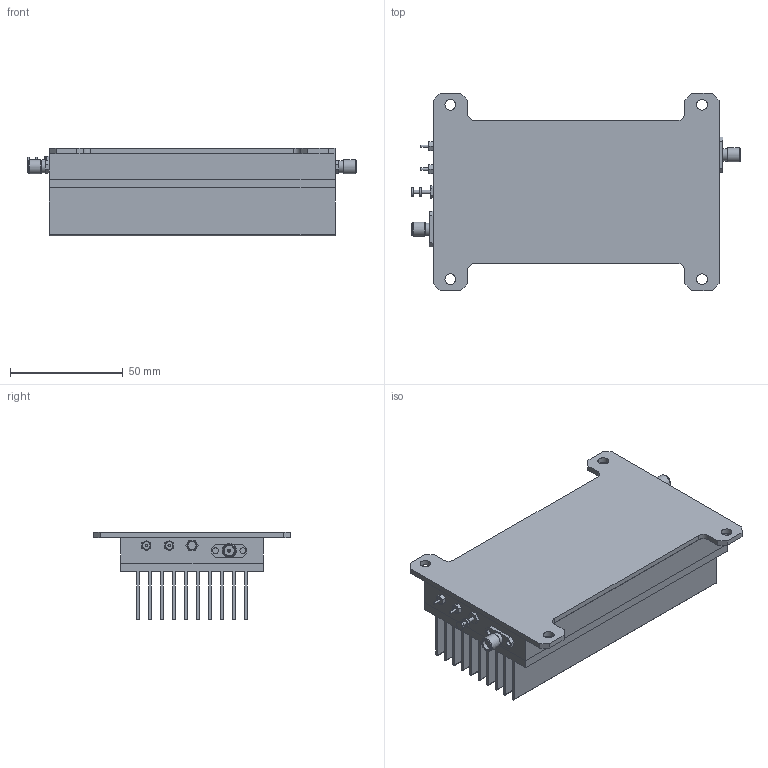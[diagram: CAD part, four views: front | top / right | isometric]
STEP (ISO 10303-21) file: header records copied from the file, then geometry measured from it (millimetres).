
FILE_DESCRIPTION((''),'2;1');
FILE_NAME('\\SERPENTOR\Engineering\ENG\Models\TAxxxx\TA1007 700-2500 MHz 5W SSPA Class A\Design\Inventor\101-HS.stp','2015-05-27T16:39:29',('dcampbell'),(''),'Autodesk Inventor 2013','Autodesk Inventor 2013','');
FILE_SCHEMA(('AUTOMOTIVE_DESIGN { 1 0 10303 214 1 1 1 1 }'));
Length unit declared in the file: inch
Products named in the file (9): 101-HS; 101; 101_1; 410-003; 410-003_1; 102-001; 470-004; T52151071; HS_CVR
Assembly tree (9 placements, depth 3):
  101-HS
    101
      101_1
      410-003
      410-003_1
      102-001  x2
      470-004
    T52151071
    HS_CVR
Bounding box: 146.18 x 87.63 x 38.96 mm (x, y, z)
Volume: 178228.3 mm3; surface area: 112613.7 mm2
Topology: 8 solids, 8 shells, 234 faces, 525 edges, 352 vertices
Faces by surface type: plane 153, cylinder 75, cone 6
Full cylindrical faces by diameter (mm): 0.737 x2, 1.016 x4, 1.245 x2, 1.27 x5, 1.295 x2, 1.651 x2, 1.905 x1, 2.159 x4, 2.286 x2, 2.54 x4, 2.591 x4, 2.743 x3, 3.175 x4, 3.277 x4, 3.429 x2, 3.683 x2, 4.597 x2, 4.775 x4, 5.08 x2, 5.486 x4, 6.35 x2
Entity records: 5996 total; most frequent: DIRECTION 1016, CARTESIAN_POINT 958, ORIENTED_EDGE 828, EDGE_CURVE 414, AXIS2_PLACEMENT_3D 372, EDGE_LOOP 342, VERTEX_POINT 314, VECTOR 272
